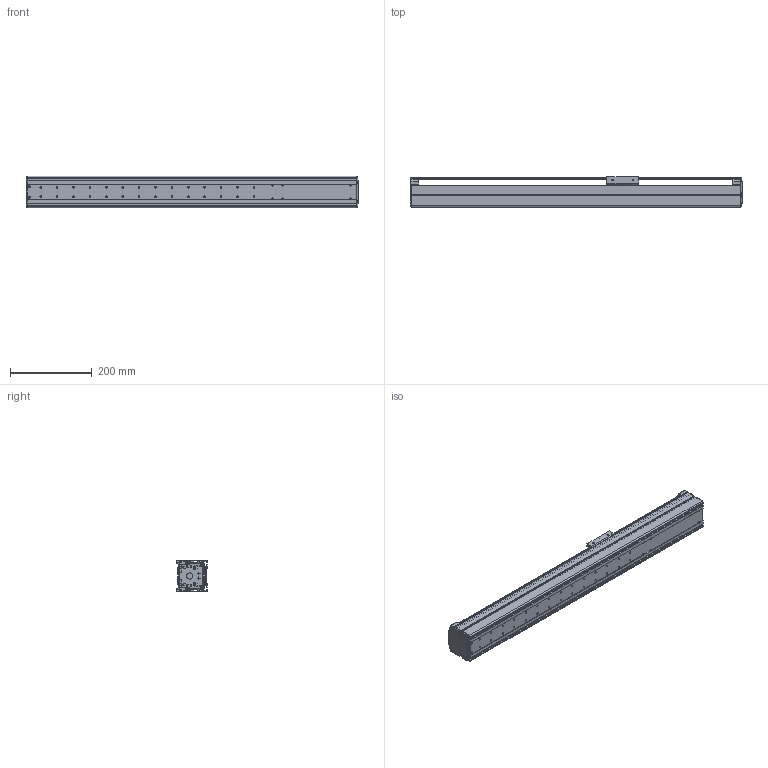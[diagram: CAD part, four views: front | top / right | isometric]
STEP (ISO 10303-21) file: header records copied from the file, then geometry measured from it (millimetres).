
FILE_DESCRIPTION((''),'2;1');
FILE_NAME('BE10E-ST-S_B-45_IGS_PRT','2017-06-17T',(' '),(''),'PRO/ENGINEER BY PARAMETRIC TECHNOLOGY CORPORATION, 2015030','PRO/ENGINEER BY PARAMETRIC TECHNOLOGY CORPORATION, 2015030','');
FILE_SCHEMA(('CONFIG_CONTROL_DESIGN'));
Length unit declared in the file: millimetre
Products named in the file (1): BE10E-ST-S_B-45_IGS_PRT
Bounding box: 810 x 75 x 78 mm (x, y, z)
Volume: 929746.9 mm3; surface area: 627378.3 mm2
Topology: 3 solids, 67 shells, 1145 faces, 3059 edges, 1984 vertices
Faces by surface type: cylinder 566, plane 426, torus 66, sphere 42, cone 38, bspline 7
Entity records: 36971 total; most frequent: CARTESIAN_POINT 7619, DIRECTION 6382, ORIENTED_EDGE 5832, EDGE_CURVE 3039, AXIS2_PLACEMENT_3D 2408, VERTEX_POINT 1984, VECTOR 1566, LINE 1566
